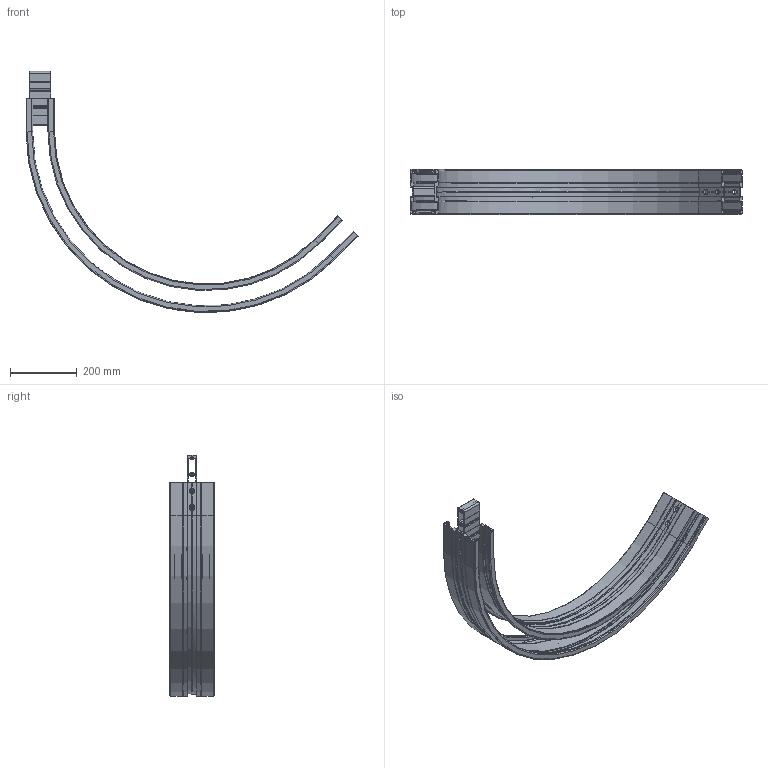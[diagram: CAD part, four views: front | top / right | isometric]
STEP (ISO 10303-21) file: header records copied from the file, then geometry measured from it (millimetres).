
FILE_DESCRIPTION (( 'STEP AP203' ), '1' );
FILE_NAME ('R2C500-135.STEP', '2008-12-02T09:28:25', ( 'faber' ), ( '' ), 'SwSTEP 2.0', 'SolidWorks 2008', '' );
FILE_SCHEMA (( 'CONFIG_CONTROL_DESIGN' ));
Length unit declared in the file: millimetre
Products named in the file (1): R2C500-135
Bounding box: 997.67 x 135 x 724.66 mm (x, y, z)
Surface area: 1134392.9 mm2 (no closed solid volume)
Topology: 0 solids, 21 shells, 431 faces, 1649 edges, 1175 vertices
Faces by surface type: cylinder 185, plane 174, torus 38, cone 34
Entity records: 17246 total; most frequent: CARTESIAN_POINT 3352, DIRECTION 3087, ORIENTED_EDGE 2424, EDGE_CURVE 1649, VERTEX_POINT 1175, AXIS2_PLACEMENT_3D 1038, LINE 1011, VECTOR 1011
